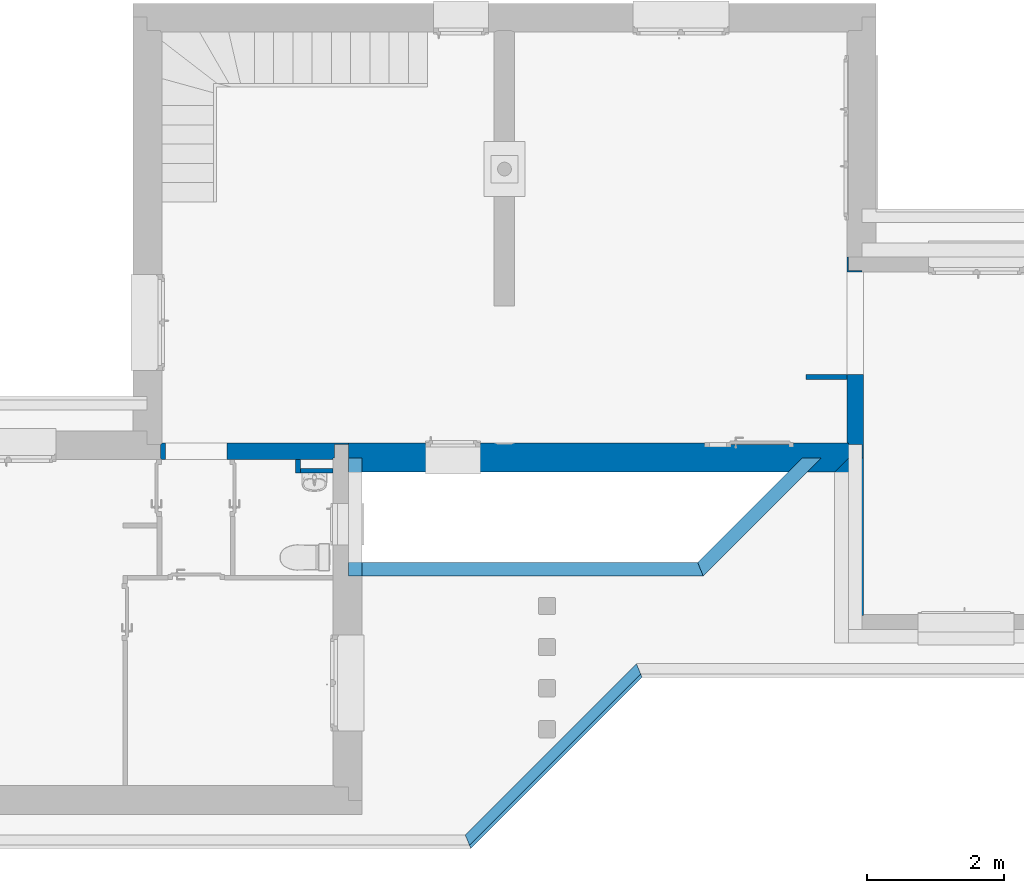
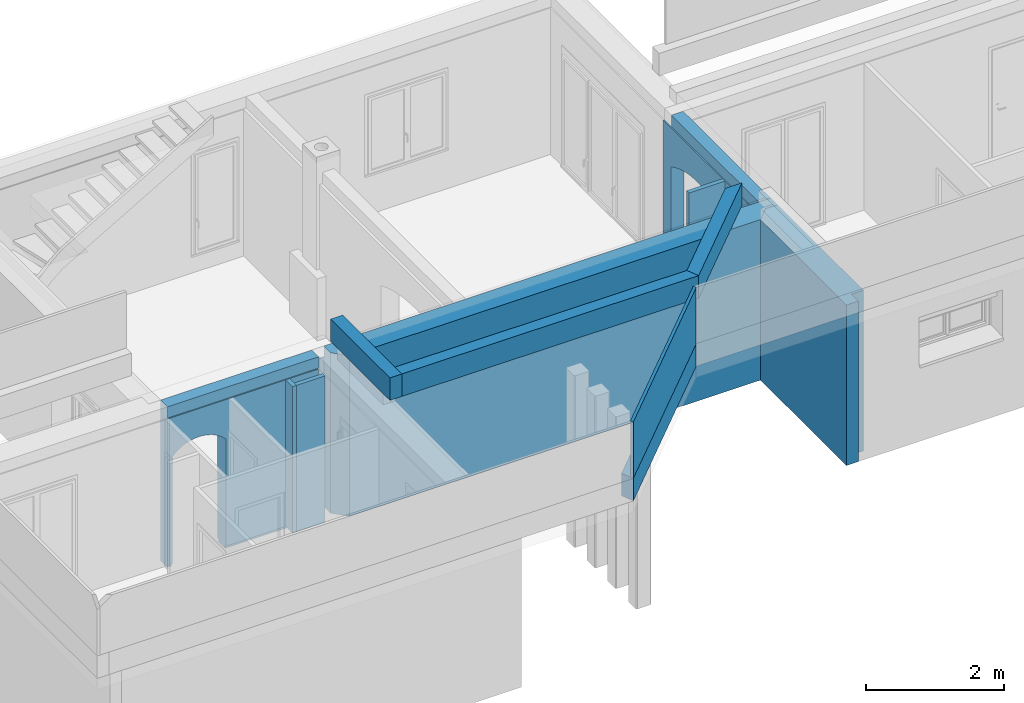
# One storey, part 2 of 16: 12 walls, 4 openings.
"""IFC4 building model written with IfcOpenShell, lengths in metres."""

from ifc_helpers import new_model, entity, si_unit, converted_unit, frame, frame_2d, origin, origin_with_axes, place, context, subcontext, project, spatial, polyline, rectangle, outline, extrude, clip, bounded_halfspace, material, layer, layer_set, layer_usage, element, save


model = new_model("IFC4")

# Units and contexts
model_context = context("Model", 3, precision=1e-05, world=origin())
body_context = subcontext(model_context, "Body", "Model", "MODEL_VIEW")
ifc_project = project(units=[si_unit("LENGTHUNIT", "METRE"), si_unit("AREAUNIT", "SQUARE_METRE"), si_unit("VOLUMEUNIT", "CUBIC_METRE"), si_unit("MASSUNIT", "GRAM", prefix="KILO"), converted_unit("PLANEANGLEUNIT", "DEGREE", entity("IfcPlaneAngleMeasure", 0.0174532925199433), si_unit("PLANEANGLEUNIT", "RADIAN"), dimensions=[0, 0, 0, 0, 0, 0, 0])], contexts=[model_context])

# Building, storey
building_placement = place(None, origin())
building = spatial("IfcBuilding", under=ifc_project, at=building_placement, Name="Projet de Construction", CompositionType="ELEMENT")
storey_placement = place(building_placement, frame((0.0, 0.0, -0.05)))
storey = spatial("IfcBuildingStorey", under=building, at=storey_placement, Name="RDC", CompositionType="ELEMENT", Elevation=-0.05)

# Wall
ifc_material_1 = material()
ifc_layer_1 = layer(ifc_material_1, 0.2)
ifc_material_2 = material()
ifc_layer_2 = layer(ifc_material_2, 0.2)
ifc_material_3 = material()
ifc_layer_3 = layer(ifc_material_3, 0.0199999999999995)
ifc_layer_set_1 = layer_set([ifc_layer_1, ifc_layer_2, ifc_layer_3])
ifc_layer_usage_1 = layer_usage(ifc_layer_set_1, "AXIS2", "POSITIVE", 0.0)
wall_1_placement = place(storey_placement, frame((2.9540625, 1.29979166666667, 0.0), z_axis=(0.0, 0.0, 1.0), x_axis=(-1.81898940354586e-16, -1.0, 0.0)))
element("IfcWall", 1, at=wall_1_placement, inside=storey, material=ifc_layer_usage_1, context=body_context, shape_type="Clipping", body=[
    clip(clip(extrude(outline(polyline([(-2.5, 0.0), (0.0, 0.0), (-3.63797880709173e-17, 0.200000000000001), (-0.200000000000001, 0.200000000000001), (-0.200000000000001, 0.400000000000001), (-0.400000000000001, 0.400000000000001), (-0.400000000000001, 0.420000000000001), (-2.7, 0.420000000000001), (-2.7, 0.199999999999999), (-2.5, 0.0)])), frame((2.5, 0.0, 0.0), z_axis=(0.0, 0.0, 1.0), x_axis=(1.0, 0.0, 0.0)), (0.0, 0.0, 1.0), 2.85), bounded_halfspace(frame((0.949999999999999, 0.41, 0.05), z_axis=(0.0, 0.0, 1.0), x_axis=(1.81898940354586e-16, -1.0, 0.0)), True, origin_with_axes(), polyline([(-0.200000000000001, 0.420000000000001), (-0.200000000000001, 0.399999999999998), (2.1, 0.400000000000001), (2.1, 0.420000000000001), (-0.200000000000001, 0.420000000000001)]))), bounded_halfspace(frame((0.949999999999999, 0.41, 2.65), z_axis=(0.0, 0.0, -1.0), x_axis=(1.0, 1.17048013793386e-15, 0.0)), True, origin_with_axes(), polyline([(-0.200000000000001, 0.399999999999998), (2.1, 0.400000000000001), (2.1, 0.420000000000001), (-0.200000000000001, 0.420000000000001), (-0.200000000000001, 0.399999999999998)]))),
])

# Wall, opening
ifc_material_4 = material()
ifc_layer_4 = layer(ifc_material_4, 0.02)
ifc_material_5 = material()
ifc_layer_5 = layer(ifc_material_5, 0.2)
ifc_material_6 = material()
ifc_layer_6 = layer(ifc_material_6, 0.02)
ifc_layer_set_2 = layer_set([ifc_layer_4, ifc_layer_5, ifc_layer_6])
ifc_layer_usage_2 = layer_usage(ifc_layer_set_2, "AXIS2", "POSITIVE", 0.0)
wall_2_placement = place(storey_placement, frame((3.1340625, 4.43979166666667, 0.0), z_axis=(0.0, 0.0, 1.0), x_axis=(-1.671865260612e-16, -1.0, 0.0)))
wall_2 = element("IfcWall", 2, at=wall_2_placement, inside=storey, material=ifc_layer_usage_2, context=body_context, shape_type="Clipping", body=[
    clip(clip(clip(clip(extrude(outline(polyline([(-2.94, -3.67810357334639e-17), (-0.219999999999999, -3.67810357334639e-17), (-0.219999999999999, 0.02), (-0.2, 0.02), (-0.2, 0.22), (-3.6781035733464e-17, 0.22), (-4.0124766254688e-17, 0.24), (-2.72, 0.24), (-2.72, 0.22), (-2.74, 0.22), (-2.74, 0.02), (-2.94, 0.02), (-2.94, -3.67810357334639e-17)])), frame((2.94, 3.67810357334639e-17, 0.0), z_axis=(0.0, 0.0, 1.0), x_axis=(1.0, 0.0, 0.0)), (0.0, 0.0, 1.0), 2.85), bounded_halfspace(frame((1.128, 0.0119999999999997, 0.05), z_axis=(0.0, 0.0, 1.0), x_axis=(-1.0, -1.671865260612e-16, 0.0)), True, origin_with_axes(), polyline([(0.2, 0.0199999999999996), (-3.34373052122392e-18, 0.0199999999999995), (7.60276298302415e-32, -4.54747350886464e-16), (2.72, -4.54747350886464e-16), (2.72, 0.0199999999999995), (0.2, 0.0199999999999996)]))), bounded_halfspace(frame((1.812, 0.228, 0.05), z_axis=(-7.42457322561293e-34, -5.68434188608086e-15, 1.0), x_axis=(1.671865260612e-16, -1.0, 0.0)), True, origin_with_axes(), polyline([(0.22, 0.24), (0.22, 0.22), (2.74, 0.22), (2.94, 0.22), (2.94, 0.24), (0.22, 0.24)]))), bounded_halfspace(frame((1.128, 0.0119999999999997, 2.65), z_axis=(0.0, 0.0, -1.0), x_axis=(1.0, 0.0, 0.0)), True, origin_with_axes(), polyline([(7.60276298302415e-32, -4.54747350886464e-16), (2.72, -4.54747350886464e-16), (2.72, 0.0199999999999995), (0.2, 0.0199999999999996), (-3.34373052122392e-18, 0.0199999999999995), (7.60276298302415e-32, -4.54747350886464e-16)]))), bounded_halfspace(frame((1.812, 0.228, 2.65), z_axis=(0.0, 0.0, -1.0), x_axis=(1.0, -2.10655022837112e-15, 0.0)), True, origin_with_axes(), polyline([(2.74, 0.22), (2.94, 0.22), (2.94, 0.24), (0.22, 0.24), (0.22, 0.22), (2.74, 0.22)]))),
])
opening_1_placement = place(wall_2_placement, frame((0.22, 3.6781035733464e-17, 0.0), z_axis=(0.0, 1.0, 0.0), x_axis=(0.0, 0.0, 1.0)))
element("IfcOpeningStandardCase", 3, at=opening_1_placement, cuts=wall_2, Name="Baie de porte", PredefinedType="OPENING", context=body_context, shape_type="SweptSolid", body=[
    extrude(outline(polyline([(1.95, 0.0), (0.0, 0.0), (0.0, 1.5), (1.95, 1.5), (1.97526652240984, 1.45416817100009), (1.99892559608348, 1.4074862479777), (2.02094865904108, 1.36001058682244), (2.04130912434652, 1.31179850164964), (2.05998241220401, 1.26290819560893), (2.07694597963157, 1.21339869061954), (2.09217934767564, 1.16332975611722), (2.10566412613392, 1.11276183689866), (2.11738403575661, 1.06175598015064), (2.12732492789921, 1.01037376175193), (2.13547480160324, 0.958677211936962), (2.14182381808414, 0.906728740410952), (2.14636431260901, 0.854591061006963), (2.14909080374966, 0.802327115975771), (2.15, 0.75), (2.14909080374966, 0.697672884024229), (2.14636431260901, 0.645408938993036), (2.14182381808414, 0.593271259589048), (2.13547480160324, 0.541322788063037), (2.12732492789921, 0.489626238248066), (2.11738403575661, 0.438244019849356), (2.10566412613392, 0.387238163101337), (2.09217934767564, 0.336670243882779), (2.07694597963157, 0.286601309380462), (2.05998241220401, 0.237091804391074), (2.04130912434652, 0.18820149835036), (2.02094865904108, 0.13998941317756), (1.99892559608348, 0.0925137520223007), (1.97526652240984, 0.0458318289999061), (1.95, 0.0)])), origin_with_axes(), (0.0, 0.0, 1.0), 0.02),
    extrude(outline(polyline([(1.95, 0.0), (0.0, 0.0), (0.0, 1.5), (1.95, 1.5), (1.97526652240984, 1.45416817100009), (1.99892559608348, 1.4074862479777), (2.02094865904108, 1.36001058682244), (2.04130912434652, 1.31179850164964), (2.05998241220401, 1.26290819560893), (2.07694597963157, 1.21339869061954), (2.09217934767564, 1.16332975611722), (2.10566412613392, 1.11276183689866), (2.11738403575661, 1.06175598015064), (2.12732492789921, 1.01037376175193), (2.13547480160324, 0.958677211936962), (2.14182381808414, 0.906728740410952), (2.14636431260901, 0.854591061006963), (2.14909080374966, 0.802327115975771), (2.15, 0.75), (2.14909080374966, 0.697672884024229), (2.14636431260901, 0.645408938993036), (2.14182381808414, 0.593271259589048), (2.13547480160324, 0.541322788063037), (2.12732492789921, 0.489626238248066), (2.11738403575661, 0.438244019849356), (2.10566412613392, 0.387238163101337), (2.09217934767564, 0.336670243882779), (2.07694597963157, 0.286601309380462), (2.05998241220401, 0.237091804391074), (2.04130912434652, 0.18820149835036), (2.02094865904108, 0.13998941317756), (1.99892559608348, 0.0925137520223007), (1.97526652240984, 0.0458318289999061), (1.95, 0.0)])), frame((0.0, -6.06329801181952e-18, 0.02), z_axis=(0.0, 0.0, 1.0), x_axis=(1.0, 0.0, 0.0)), (0.0, 0.0, 1.0), 0.2),
    extrude(outline(polyline([(1.95, 0.0), (0.0, 0.0), (0.0, 1.5), (1.95, 1.5), (1.97526652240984, 1.45416817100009), (1.99892559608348, 1.4074862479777), (2.02094865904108, 1.36001058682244), (2.04130912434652, 1.31179850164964), (2.05998241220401, 1.26290819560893), (2.07694597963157, 1.21339869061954), (2.09217934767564, 1.16332975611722), (2.10566412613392, 1.11276183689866), (2.11738403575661, 1.06175598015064), (2.12732492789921, 1.01037376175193), (2.13547480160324, 0.958677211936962), (2.14182381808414, 0.906728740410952), (2.14636431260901, 0.854591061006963), (2.14909080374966, 0.802327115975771), (2.15, 0.75), (2.14909080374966, 0.697672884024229), (2.14636431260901, 0.645408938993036), (2.14182381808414, 0.593271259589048), (2.13547480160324, 0.541322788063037), (2.12732492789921, 0.489626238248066), (2.11738403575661, 0.438244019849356), (2.10566412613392, 0.387238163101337), (2.09217934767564, 0.336670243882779), (2.07694597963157, 0.286601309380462), (2.05998241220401, 0.237091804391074), (2.04130912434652, 0.18820149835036), (2.02094865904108, 0.13998941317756), (1.99892559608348, 0.0925137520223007), (1.97526652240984, 0.0458318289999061), (1.95, 0.0)])), frame((0.0, -6.66962781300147e-17, 0.22), z_axis=(0.0, 0.0, 1.0), x_axis=(1.0, 0.0, 0.0)), (0.0, 0.0, 1.0), 0.02),
])

ifc_material_7 = material()
ifc_layer_7 = layer(ifc_material_7, 0.02)
ifc_material_8 = material()
ifc_layer_8 = layer(ifc_material_8, 0.2)
ifc_material_9 = material()
ifc_layer_9 = layer(ifc_material_9, 0.02)
ifc_layer_set_3 = layer_set([ifc_layer_7, ifc_layer_8, ifc_layer_9])
ifc_layer_usage_3 = layer_usage(ifc_layer_set_3, "AXIS2", "POSITIVE", 0.0)
wall_3_placement = place(storey_placement, frame((-6.8659375, 1.47979166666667, 0.0)))
wall_3 = element("IfcWall", 4, at=wall_3_placement, inside=storey, material=ifc_layer_usage_3, context=body_context, shape_type="Clipping", body=[
    clip(clip(clip(clip(extrude(outline(polyline([(0.02, 0.0), (2.52, 0.0), (2.52, 0.02), (2.54, 0.02), (2.54, 0.22), (2.74, 0.22), (2.74, 0.24), (0.02, 0.24), (0.0, 0.22), (0.0, 0.02), (0.02, 0.0)])), frame((-0.02, 0.0, 0.0), z_axis=(0.0, 0.0, 1.0), x_axis=(1.0, 0.0, 0.0)), (0.0, 0.0, 1.0), 2.85), bounded_halfspace(frame((1.588, 0.228, 0.05), z_axis=(0.0, -5.70516365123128e-15, 1.0), x_axis=(-0.707106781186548, -0.707106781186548, 0.0)), True, origin_with_axes(), polyline([(0.0, 0.24), (-0.02, 0.22), (2.52, 0.22), (2.72, 0.22), (2.72, 0.24), (0.0, 0.24)]))), bounded_halfspace(frame((1.245, 0.01, 0.05), z_axis=(0.0, 0.0, 1.0), x_axis=(0.707106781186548, -0.707106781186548, 0.0)), True, origin_with_axes(), polyline([(-0.0200000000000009, 0.02), (-9.09494701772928e-16, 0.0), (2.5, 0.0), (2.5, 0.02), (-0.0200000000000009, 0.02)]))), bounded_halfspace(frame((1.588, 0.228, 2.65), z_axis=(0.0, 0.0, -1.0), x_axis=(1.0, 0.0, 0.0)), True, origin_with_axes(), polyline([(2.52, 0.22), (2.72, 0.22), (2.72, 0.24), (0.0, 0.24), (-0.02, 0.22), (2.52, 0.22)]))), bounded_halfspace(frame((1.245, 0.01, 2.65), z_axis=(0.0, 0.0, -1.0), x_axis=(1.0, 0.0, 0.0)), True, origin_with_axes(), polyline([(-9.09494701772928e-16, 0.0), (2.5, 0.0), (2.5, 0.02), (-0.0200000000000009, 0.02), (-9.09494701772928e-16, 0.0)]))),
])
opening_2_placement = place(wall_3_placement, frame((0.0500000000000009, 0.0, 0.0), z_axis=(0.0, 1.0, 0.0), x_axis=(0.0, 0.0, 1.0)))
element("IfcOpeningStandardCase", 5, at=opening_2_placement, cuts=wall_3, Name="Baie de porte", PredefinedType="OPENING", context=body_context, shape_type="SweptSolid", body=[
    extrude(outline(polyline([(1.95, 0.0), (0.0, 0.0), (0.0, 0.9), (1.95, 0.9), (1.97444899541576, 0.876658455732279), (1.99755906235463, 0.851990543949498), (2.01925835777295, 0.826072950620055), (2.03947942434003, 0.798986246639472), (2.058159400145, 0.77081463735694), (2.07524021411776, 0.741645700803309), (2.09066876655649, 0.711570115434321), (2.10439709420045, 0.680681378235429), (2.11638251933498, 0.649075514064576), (2.1265877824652, 0.616850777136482), (2.13498115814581, 0.584107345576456), (2.14153655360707, 0.550947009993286), (2.14623358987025, 0.517472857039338), (2.1490576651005, 0.483788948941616), (2.15, 0.45), (2.1490576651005, 0.416211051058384), (2.14623358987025, 0.382527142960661), (2.14153655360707, 0.349052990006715), (2.13498115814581, 0.315892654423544), (2.1265877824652, 0.283149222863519), (2.11638251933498, 0.250924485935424), (2.10439709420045, 0.219318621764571), (2.09066876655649, 0.188429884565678), (2.07524021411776, 0.158354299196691), (2.058159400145, 0.12918536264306), (2.03947942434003, 0.101013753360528), (2.01925835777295, 0.0739270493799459), (1.99755906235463, 0.0480094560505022), (1.97444899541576, 0.0233415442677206), (1.95, 0.0)])), origin_with_axes(), (0.0, 0.0, 1.0), 0.02),
    extrude(outline(polyline([(1.95, 0.0), (0.0, 0.0), (0.0, 0.9), (1.95, 0.9), (1.97444899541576, 0.876658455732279), (1.99755906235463, 0.851990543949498), (2.01925835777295, 0.826072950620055), (2.03947942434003, 0.798986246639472), (2.058159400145, 0.77081463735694), (2.07524021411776, 0.741645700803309), (2.09066876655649, 0.711570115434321), (2.10439709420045, 0.680681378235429), (2.11638251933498, 0.649075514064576), (2.1265877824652, 0.616850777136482), (2.13498115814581, 0.584107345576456), (2.14153655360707, 0.550947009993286), (2.14623358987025, 0.517472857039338), (2.1490576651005, 0.483788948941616), (2.15, 0.45), (2.1490576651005, 0.416211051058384), (2.14623358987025, 0.382527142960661), (2.14153655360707, 0.349052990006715), (2.13498115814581, 0.315892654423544), (2.1265877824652, 0.283149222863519), (2.11638251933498, 0.250924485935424), (2.10439709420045, 0.219318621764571), (2.09066876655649, 0.188429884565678), (2.07524021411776, 0.158354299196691), (2.058159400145, 0.12918536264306), (2.03947942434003, 0.101013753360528), (2.01925835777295, 0.0739270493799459), (1.99755906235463, 0.0480094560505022), (1.97444899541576, 0.0233415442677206), (1.95, 0.0)])), frame((0.0, 0.0, 0.02), z_axis=(0.0, 0.0, 1.0), x_axis=(1.0, 0.0, 0.0)), (0.0, 0.0, 1.0), 0.2),
    extrude(outline(polyline([(1.95, 0.0), (0.0, 0.0), (0.0, 0.9), (1.95, 0.9), (1.97444899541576, 0.876658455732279), (1.99755906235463, 0.851990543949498), (2.01925835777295, 0.826072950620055), (2.03947942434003, 0.798986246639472), (2.058159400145, 0.77081463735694), (2.07524021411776, 0.741645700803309), (2.09066876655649, 0.711570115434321), (2.10439709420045, 0.680681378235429), (2.11638251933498, 0.649075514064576), (2.1265877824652, 0.616850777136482), (2.13498115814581, 0.584107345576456), (2.14153655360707, 0.550947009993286), (2.14623358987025, 0.517472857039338), (2.1490576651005, 0.483788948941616), (2.15, 0.45), (2.1490576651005, 0.416211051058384), (2.14623358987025, 0.382527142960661), (2.14153655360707, 0.349052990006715), (2.13498115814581, 0.315892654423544), (2.1265877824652, 0.283149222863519), (2.11638251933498, 0.250924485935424), (2.10439709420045, 0.219318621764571), (2.09066876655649, 0.188429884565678), (2.07524021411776, 0.158354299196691), (2.058159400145, 0.12918536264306), (2.03947942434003, 0.101013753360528), (2.01925835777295, 0.0739270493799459), (1.99755906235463, 0.0480094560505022), (1.97444899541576, 0.0233415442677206), (1.95, 0.0)])), frame((0.0, 0.0, 0.22), z_axis=(0.0, 0.0, 1.0), x_axis=(1.0, 0.0, 0.0)), (0.0, 0.0, 1.0), 0.02),
])

# Wall, openings
ifc_material_10 = material()
ifc_layer_10 = layer(ifc_material_10, 0.2)
ifc_material_11 = material()
ifc_layer_11 = layer(ifc_material_11, 0.2)
ifc_material_12 = material()
ifc_layer_12 = layer(ifc_material_12, 0.02)
ifc_layer_set_4 = layer_set([ifc_layer_10, ifc_layer_11, ifc_layer_12])
ifc_layer_usage_4 = layer_usage(ifc_layer_set_4, "AXIS2", "POSITIVE", 0.0)
wall_4_placement = place(storey_placement, frame((-3.9459375, 1.29979166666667, 0.0), z_axis=(0.0, 0.0, 1.0), x_axis=(1.0, -1.31810826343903e-16, 0.0)))
wall_4 = element("IfcWall", 6, at=wall_4_placement, inside=storey, material=ifc_layer_usage_4, context=body_context, shape_type="Clipping", body=[
    clip(clip(extrude(outline(polyline([(0.200000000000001, 9.35856867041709e-16), (7.1, 9.35856867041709e-16), (7.3, 0.200000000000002), (7.5, 0.200000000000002), (7.5, 0.400000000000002), (7.3, 0.400000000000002), (7.3, 0.420000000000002), (-5.53605470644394e-17, 0.420000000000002), (-2.63621652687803e-17, 0.199999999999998), (0.200000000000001, 9.35856867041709e-16)])), frame((-0.200000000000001, -9.35856867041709e-16, 0.0), z_axis=(0.0, 0.0, 1.0), x_axis=(1.0, 0.0, 0.0)), (0.0, 0.0, 1.0), 2.85), bounded_halfspace(frame((3.45, 0.41, 0.05), z_axis=(0.0, 0.0, 1.0), x_axis=(1.31810826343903e-16, -1.0, 0.0)), True, origin_with_axes(), polyline([(-0.200000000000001, 0.420000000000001), (-0.200000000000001, 0.399999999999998), (7.1, 0.400000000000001), (7.1, 0.420000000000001), (-0.200000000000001, 0.420000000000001)]))), bounded_halfspace(frame((3.45, 0.41, 2.65), z_axis=(0.0, 0.0, -1.0), x_axis=(1.0, 3.80987456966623e-16, 0.0)), True, origin_with_axes(), polyline([(-0.200000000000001, 0.399999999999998), (7.1, 0.400000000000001), (7.1, 0.420000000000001), (-0.200000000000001, 0.420000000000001), (-0.200000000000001, 0.399999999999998)]))),
])
opening_3_placement = place(wall_4_placement, frame((6.3, 0.200000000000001, 0.05), z_axis=(0.0, -1.0, 0.0), x_axis=(0.0, 0.0, 1.0)))
element("IfcOpeningStandardCase", 7, at=opening_3_placement, cuts=wall_4, Name="Baie de porte", PredefinedType="OPENING", context=body_context, shape_type="SweptSolid", body=[
    extrude(outline(polyline([(0.0, 1.3), (2.15, 1.3), (2.15, 0.0), (0.0, 0.0), (0.0, 1.3)])), origin_with_axes(), (0.0, 0.0, 1.0), 0.200000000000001),
    extrude(outline(polyline([(0.0, 1.3), (2.15, 1.3), (2.15, 0.0), (0.0, 0.0), (0.0, 1.3)])), frame((0.0, -3.49805654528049e-17, -0.2), z_axis=(0.0, 0.0, 1.0), x_axis=(1.0, 0.0, 0.0)), (0.0, 0.0, 1.0), 0.2),
    extrude(outline(polyline([(0.0, 1.3), (2.15, 1.3), (2.15, 0.0), (0.0, 0.0), (0.0, 1.3)])), frame((0.0, -3.84786219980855e-17, -0.22), z_axis=(0.0, 0.0, 1.0), x_axis=(1.0, 0.0, 0.0)), (0.0, 0.0, 1.0), 0.02),
])
opening_4_placement = place(wall_4_placement, frame((1.73, 0.199999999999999, 0.35), z_axis=(0.0, -1.0, 0.0), x_axis=(0.0, 0.0, 1.0)))
element("IfcOpeningStandardCase", 8, at=opening_4_placement, cuts=wall_4, Name="Baie de fenêtre", PredefinedType="OPENING", context=body_context, shape_type="SweptSolid", body=[
    extrude(outline(polyline([(0.0, 0.8), (1.85, 0.8), (1.85, 0.0), (0.0, 0.0), (0.0, 0.8)])), origin_with_axes(), (0.0, 0.0, 1.0), 0.199999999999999),
    extrude(outline(polyline([(0.0, 0.8), (1.85, 0.8), (1.85, 0.0), (0.0, 0.0), (0.0, 0.8)])), frame((0.0, -5.6843418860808e-17, -0.2), z_axis=(0.0, 0.0, 1.0), x_axis=(1.0, 0.0, 0.0)), (0.0, 0.0, 1.0), 0.2),
    extrude(outline(polyline([(0.0, 0.8), (1.85, 0.8), (1.85, 0.0), (0.0, 0.0), (0.0, 0.8)])), frame((0.0, -6.25277607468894e-17, -0.220000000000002), z_axis=(0.0, 0.0, 1.0), x_axis=(1.0, 0.0, 0.0)), (0.0, 0.0, 1.0), 0.02),
])

# Walls
ifc_material_13 = material()
ifc_layer_13 = layer(ifc_material_13, 0.0700000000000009)
ifc_layer_set_5 = layer_set([ifc_layer_13])
ifc_layer_usage_5 = layer_usage(ifc_layer_set_5, "AXIS2", "POSITIVE", 0.0)
wall_5_placement = place(storey_placement, frame((3.1340625, 2.71979166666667, 0.05), z_axis=(0.0, 0.0, 1.0), x_axis=(-1.0, 0.0, 0.0)))
element("IfcWall", 9, at=wall_5_placement, inside=storey, material=ifc_layer_usage_5, context=body_context, shape_type="SweptSolid", body=[
    extrude(rectangle(XDim=0.6, YDim=0.0700000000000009, at=frame_2d((0.3, 0.0350000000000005), x_axis=(1.0, 0.0))), origin_with_axes(), (0.0, 0.0, 1.0), 2.6),
])
ifc_material_14 = material()
ifc_layer_14 = layer(ifc_material_14, 0.07)
ifc_layer_set_6 = layer_set([ifc_layer_14])
ifc_layer_usage_6 = layer_usage(ifc_layer_set_6, "AXIS2", "POSITIVE", 0.0)
wall_6_placement = place(storey_placement, frame((-4.9159375, 1.47979166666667, 0.05), z_axis=(0.0, 0.0, 1.0), x_axis=(0.0, -1.0, 0.0)))
element("IfcWall", 10, at=wall_6_placement, inside=storey, material=ifc_layer_usage_6, context=body_context, shape_type="SweptSolid", body=[
    extrude(rectangle(XDim=0.199999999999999, YDim=0.07, at=frame_2d((0.0999999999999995, 0.035), x_axis=(1.0, 0.0))), origin_with_axes(), (0.0, 0.0, 1.0), 2.6),
])
ifc_material_15 = material()
ifc_layer_15 = layer(ifc_material_15, 0.07)
ifc_layer_set_7 = layer_set([ifc_layer_15])
ifc_layer_usage_7 = layer_usage(ifc_layer_set_7, "AXIS2", "POSITIVE", 0.0)
wall_7_placement = place(storey_placement, frame((-4.8459375, 1.27979166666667, 0.05)))
element("IfcWall", 11, at=wall_7_placement, inside=storey, material=ifc_layer_usage_7, context=body_context, shape_type="SweptSolid", body=[
    extrude(rectangle(XDim=0.48, YDim=0.07, at=frame_2d((0.24, 0.035), x_axis=(1.0, 0.0))), origin_with_axes(), (0.0, 0.0, 1.0), 2.6),
])
ifc_material_16 = material(Name="Bois & Verre")
ifc_layer_16 = layer(ifc_material_16, 0.05)
ifc_layer_set_8 = layer_set([ifc_layer_16])
ifc_layer_usage_8 = layer_usage(ifc_layer_set_8, "AXIS2", "POSITIVE", 0.0)
wall_8_placement = place(storey_placement, frame((-2.35653354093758, -4.20020833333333, 3.45), z_axis=(0.0, 0.0, 1.0), x_axis=(0.707106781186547, 0.707106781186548, 0.0)))
element("IfcWall", 12, at=wall_8_placement, inside=storey, material=ifc_layer_usage_8, context=body_context, shape_type="SweptSolid", body=[
    extrude(outline(polyline([(0.0146446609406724, -0.0146446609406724), (3.55017856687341, -0.0146446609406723), (3.57088924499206, 0.0353553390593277), (0.0353553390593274, 0.0353553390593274), (0.0146446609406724, -0.0146446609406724)])), frame((-0.0146446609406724, 0.0146446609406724, 0.0), z_axis=(0.0, 0.0, 1.0), x_axis=(1.0, 0.0, 0.0)), (0.0, 0.0, 1.0), 1.0),
])
ifc_material_17 = material()
ifc_layer_17 = layer(ifc_material_17, 0.2)
ifc_layer_set_9 = layer_set([ifc_layer_17])
ifc_layer_usage_9 = layer_usage(ifc_layer_set_9, "AXIS2", "POSITIVE", 0.0)
wall_9_placement = place(storey_placement, frame((-2.35653354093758, -4.20020833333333, 3.05), z_axis=(0.0, 0.0, 1.0), x_axis=(0.707106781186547, 0.707106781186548, 0.0)))
element("IfcWall", 13, at=wall_9_placement, inside=storey, material=ifc_layer_usage_9, context=body_context, shape_type="SweptSolid", body=[
    extrude(outline(polyline([(0.0585786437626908, -0.0585786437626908), (3.59411254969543, -0.0585786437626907), (3.67695526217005, 0.141421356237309), (0.14142135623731, 0.141421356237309), (0.0585786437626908, -0.0585786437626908)])), frame((-0.0585786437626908, 0.0585786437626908, 0.0), z_axis=(0.0, 0.0, 1.0), x_axis=(1.0, 0.0, 0.0)), (0.0, 0.0, 1.0), 0.4),
])
ifc_material_18 = material()
ifc_layer_18 = layer(ifc_material_18, 0.2)
ifc_layer_set_10 = layer_set([ifc_layer_18])
ifc_layer_usage_10 = layer_usage(ifc_layer_set_10, "AXIS2", "POSITIVE", 0.0)
wall_10_placement = place(storey_placement, frame((0.954062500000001, -0.022988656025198, 3.05), z_axis=(0.0, 0.0, 1.0), x_axis=(-1.0, 1.22532369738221e-16, 0.0)))
element("IfcWall", 14, at=wall_10_placement, inside=storey, material=ifc_layer_usage_10, context=body_context, shape_type="SweptSolid", body=[
    extrude(outline(polyline([(-4.9, -0.200000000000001), (-4.3024087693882e-16, -0.200000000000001), (7.66167469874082e-32, -6.25277607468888e-16), (-4.98284271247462, -6.10559525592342e-16), (-4.9, -0.200000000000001)])), frame((4.9, 0.200000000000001, 0.0), z_axis=(0.0, 0.0, 1.0), x_axis=(1.0, 0.0, 0.0)), (0.0, 0.0, 1.0), 0.4),
])
ifc_material_19 = material()
ifc_layer_19 = layer(ifc_material_19, 0.2)
ifc_layer_set_11 = layer_set([ifc_layer_19])
ifc_layer_usage_11 = layer_usage(ifc_layer_set_11, "AXIS2", "POSITIVE", 0.0)
wall_11_placement = place(storey_placement, frame((2.47684282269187, 1.49979166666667, 3.05), z_axis=(0.0, 0.0, 1.0), x_axis=(-0.707106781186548, -0.707106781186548, 0.0)))
element("IfcWall", 15, at=wall_11_placement, inside=storey, material=ifc_layer_usage_11, context=body_context, shape_type="SweptSolid", body=[
    extrude(outline(polyline([(-2.29495794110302, -0.14142135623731), (-0.14142135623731, -0.14142135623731), (-0.0585786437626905, 0.0585786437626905), (-2.49495794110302, 0.0585786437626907), (-2.29495794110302, -0.14142135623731)])), frame((2.29495794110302, 0.14142135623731, 0.0), z_axis=(0.0, 0.0, 1.0), x_axis=(1.0, 0.0, 0.0)), (0.0, 0.0, 1.0), 0.4),
])
ifc_material_20 = material()
ifc_layer_20 = layer(ifc_material_20, 0.2)
ifc_layer_set_12 = layer_set([ifc_layer_20])
ifc_layer_usage_12 = layer_usage(ifc_layer_set_12, "AXIS2", "POSITIVE", 0.0)
wall_12_placement = place(storey_placement, frame((-3.9459375, -0.222988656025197, 3.05), z_axis=(0.0, 0.0, 1.0), x_axis=(1.58376786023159e-15, 1.0, 0.0)))
element("IfcWall", 16, at=wall_12_placement, inside=storey, material=ifc_layer_usage_12, context=body_context, shape_type="SweptSolid", body=[
    extrude(rectangle(XDim=1.72278032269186, YDim=0.2, at=frame_2d((0.861390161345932, 0.1), x_axis=(1.0, 0.0))), origin_with_axes(), (0.0, 0.0, 1.0), 0.4),
])

save(model, "model.ifc")
